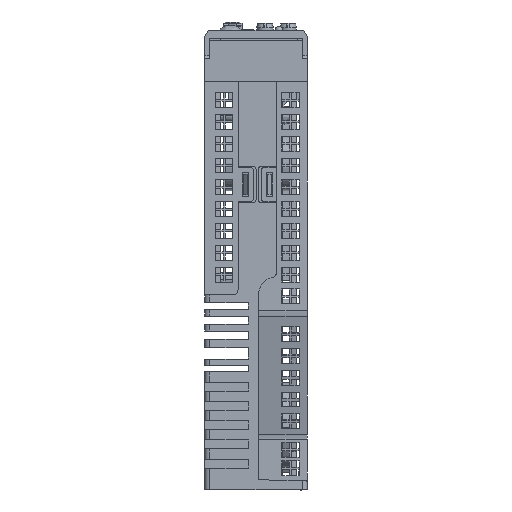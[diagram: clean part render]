
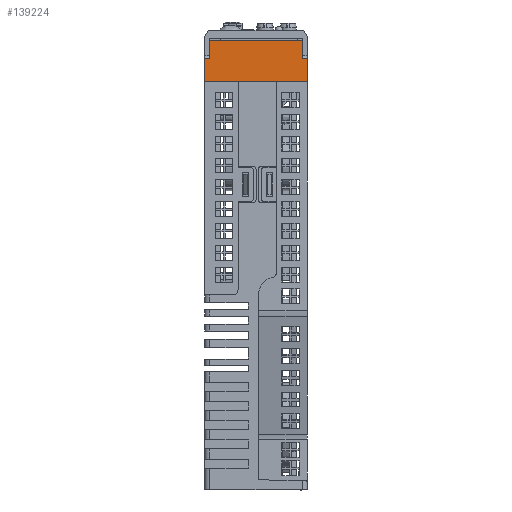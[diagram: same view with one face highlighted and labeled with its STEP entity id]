
A CAD part, left-side view. The second image highlights one B-rep face of the part: STEP entity #139224.
In plain terms, the highlighted planar face has unit normal (-1, 0, 0) as drawn and (0, 1, 0) by its records, which use the part's own axes.
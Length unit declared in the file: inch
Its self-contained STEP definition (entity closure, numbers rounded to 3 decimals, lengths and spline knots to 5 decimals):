
#1562 = CARTESIAN_POINT ( 'NONE',  ( 0.07874, 6.29921, 0.49606 ) ) ;
#2312 = CARTESIAN_POINT ( 'NONE',  ( 1.49606, 6.29921, 0.3622 ) ) ;
#3466 = VERTEX_POINT ( 'NONE', #34061 ) ;
#4277 = ORIENTED_EDGE ( 'NONE', *, *, #28995, .F. ) ;
#5828 = AXIS2_PLACEMENT_3D ( 'NONE', #87718, #8070, #101149 ) ;
#7112 = VECTOR ( 'NONE', #58684, 39.37008 ) ;
#8070 = DIRECTION ( 'NONE',  ( 0., -1., 0. ) ) ;
#13533 = LINE ( 'NONE', #1562, #80109 ) ;
#16456 = LINE ( 'NONE', #125775, #122711 ) ;
#16764 = VERTEX_POINT ( 'NONE', #104453 ) ;
#17375 = DIRECTION ( 'NONE',  ( 0., 0., 1. ) ) ;
#19574 = VECTOR ( 'NONE', #104302, 39.37008 ) ;
#26563 = VECTOR ( 'NONE', #124758, 39.37008 ) ;
#27215 = EDGE_CURVE ( 'NONE', #58573, #145601, #121703, .T. ) ;
#27299 = EDGE_CURVE ( 'NONE', #82120, #144442, #34148, .T. ) ;
#28995 = EDGE_CURVE ( 'NONE', #3466, #82120, #127258, .T. ) ;
#31559 = CARTESIAN_POINT ( 'NONE',  ( 0.7874, 6.29921, 0.3622 ) ) ;
#34023 = EDGE_CURVE ( 'NONE', #16764, #53992, #16456, .T. ) ;
#34061 = CARTESIAN_POINT ( 'NONE',  ( 0.07874, 6.29921, 0.3622 ) ) ;
#34148 = LINE ( 'NONE', #85387, #7112 ) ;
#43566 = CARTESIAN_POINT ( 'NONE',  ( 1.49606, 6.29921, 0.31496 ) ) ;
#44795 = ORIENTED_EDGE ( 'NONE', *, *, #106866, .F. ) ;
#50283 = EDGE_CURVE ( 'NONE', #145601, #77213, #132885, .T. ) ;
#53992 = VERTEX_POINT ( 'NONE', #153196 ) ;
#58573 = VERTEX_POINT ( 'NONE', #2312 ) ;
#58684 = DIRECTION ( 'NONE',  ( 0., 0., -1. ) ) ;
#60444 = PLANE ( 'NONE',  #5828 ) ;
#61994 = VECTOR ( 'NONE', #161252, 39.37008 ) ;
#67117 = EDGE_CURVE ( 'NONE', #53992, #58573, #121667, .T. ) ;
#71152 = CARTESIAN_POINT ( 'NONE',  ( 0.7874, 6.29921, 0. ) ) ;
#77213 = VERTEX_POINT ( 'NONE', #147191 ) ;
#80109 = VECTOR ( 'NONE', #121484, 39.37008 ) ;
#81255 = CARTESIAN_POINT ( 'NONE',  ( 0.7874, 6.29921, 0.62992 ) ) ;
#82120 = VERTEX_POINT ( 'NONE', #143970 ) ;
#84854 = ORIENTED_EDGE ( 'NONE', *, *, #67117, .F. ) ;
#85387 = CARTESIAN_POINT ( 'NONE',  ( 0., 6.29921, 0.31496 ) ) ;
#87718 = CARTESIAN_POINT ( 'NONE',  ( 0., 6.29921, 0.62992 ) ) ;
#89594 = FACE_OUTER_BOUND ( 'NONE', #127722, .T. ) ;
#91724 = VECTOR ( 'NONE', #97889, 39.37008 ) ;
#97889 = DIRECTION ( 'NONE',  ( -1., 0., 0. ) ) ;
#101149 = DIRECTION ( 'NONE',  ( 0., 0., -1. ) ) ;
#104302 = DIRECTION ( 'NONE',  ( -1., 0., 0. ) ) ;
#104453 = CARTESIAN_POINT ( 'NONE',  ( 1.5748, 6.29921, 0. ) ) ;
#106866 = EDGE_CURVE ( 'NONE', #144442, #16764, #172655, .T. ) ;
#114503 = ORIENTED_EDGE ( 'NONE', *, *, #27299, .F. ) ;
#117519 = VECTOR ( 'NONE', #17375, 39.37008 ) ;
#121484 = DIRECTION ( 'NONE',  ( 0., 0., -1. ) ) ;
#121667 = LINE ( 'NONE', #130567, #19574 ) ;
#121703 = LINE ( 'NONE', #43566, #117519 ) ;
#122711 = VECTOR ( 'NONE', #152664, 39.37008 ) ;
#124758 = DIRECTION ( 'NONE',  ( 1., 0., 0. ) ) ;
#125775 = CARTESIAN_POINT ( 'NONE',  ( 1.5748, 6.29921, 0.31496 ) ) ;
#127258 = LINE ( 'NONE', #31559, #91724 ) ;
#127722 = EDGE_LOOP ( 'NONE', ( #133728, #166847, #158077, #84854, #131597, #44795, #114503, #4277 ) ) ;
#130567 = CARTESIAN_POINT ( 'NONE',  ( 0.7874, 6.29921, 0.3622 ) ) ;
#131597 = ORIENTED_EDGE ( 'NONE', *, *, #34023, .F. ) ;
#132885 = LINE ( 'NONE', #81255, #61994 ) ;
#133728 = ORIENTED_EDGE ( 'NONE', *, *, #141331, .F. ) ;
#139224 = ADVANCED_FACE ( 'NONE', ( #89594 ), #60444, .F. ) ;
#141331 = EDGE_CURVE ( 'NONE', #77213, #3466, #13533, .T. ) ;
#143791 = CARTESIAN_POINT ( 'NONE',  ( 1.49606, 6.29921, 0.62992 ) ) ;
#143970 = CARTESIAN_POINT ( 'NONE',  ( 0., 6.29921, 0.3622 ) ) ;
#144442 = VERTEX_POINT ( 'NONE', #164038 ) ;
#145601 = VERTEX_POINT ( 'NONE', #143791 ) ;
#147191 = CARTESIAN_POINT ( 'NONE',  ( 0.07874, 6.29921, 0.62992 ) ) ;
#152664 = DIRECTION ( 'NONE',  ( 0., 0., 1. ) ) ;
#153196 = CARTESIAN_POINT ( 'NONE',  ( 1.5748, 6.29921, 0.3622 ) ) ;
#158077 = ORIENTED_EDGE ( 'NONE', *, *, #27215, .F. ) ;
#161252 = DIRECTION ( 'NONE',  ( -1., 0., 0. ) ) ;
#164038 = CARTESIAN_POINT ( 'NONE',  ( 0., 6.29921, 0. ) ) ;
#166847 = ORIENTED_EDGE ( 'NONE', *, *, #50283, .F. ) ;
#172655 = LINE ( 'NONE', #71152, #26563 ) ;
